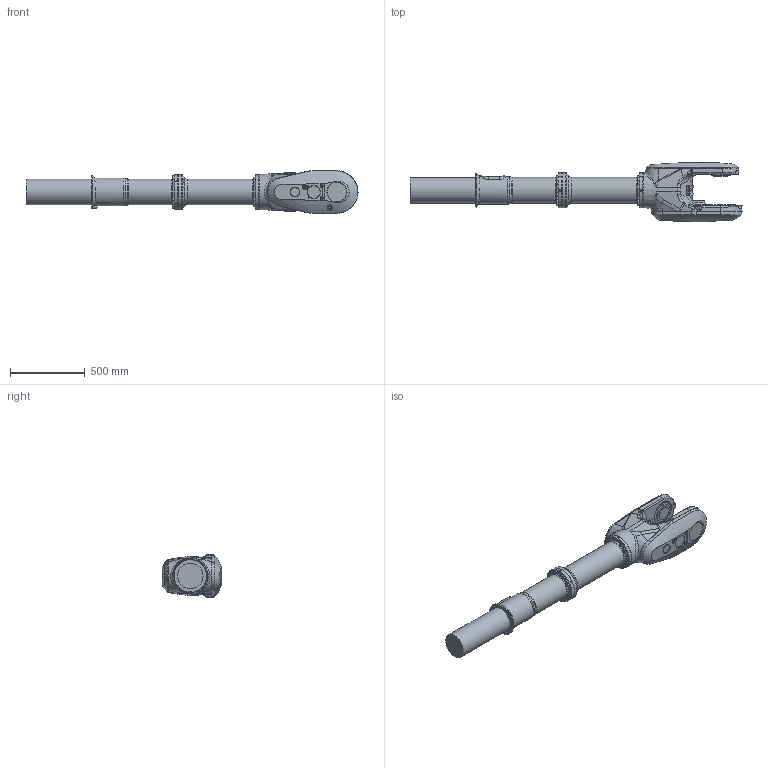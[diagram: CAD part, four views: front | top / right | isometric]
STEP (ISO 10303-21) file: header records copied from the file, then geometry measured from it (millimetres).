
FILE_DESCRIPTION (( 'STEP AP214' ), '1' );
FILE_NAME ('IRB6750S_All-390_OC_00_LINK04_CAD.step', '2026-05-13T05:21:33', ( '' ), ( '' ), 'SwSTEP 2.0', 'SolidWorks 2024', '' );
FILE_SCHEMA (( 'AUTOMOTIVE_DESIGN' ));
Length unit declared in the file: millimetre
Products named in the file (1): IRB6750S_All-390_OC_00_LINK04_CAD
Bounding box: 2217.5 x 395.55 x 284 mm (x, y, z)
Volume: 75496338.3 mm3; surface area: 1831654.3 mm2
Topology: 1 solids, 1 shells, 655 faces, 1598 edges, 1017 vertices
Faces by surface type: plane 312, cylinder 139, bspline 91, cone 86, torus 27
Full cylindrical faces by diameter (mm): 6.8 x8, 8.3 x2, 10.5 x2, 12 x3, 17.4 x1, 17.9 x2, 18 x1, 18.27 x28, 20 x2, 24 x1, 27 x2, 28.01 x1, 28.5 x2, 62 x1, 92 x1, 124 x1, 132 x1, 138 x1, 148 x1, 153 x1, 164.985 x1, 170 x1, 172 x2, 185 x1, 234 x4
Entity records: 36517 total; most frequent: CARTESIAN_POINT 15892, ORIENTED_EDGE 2830, DIRECTION 2408, EDGE_CURVE 1415, VERTEX_POINT 974, AXIS2_PLACEMENT_3D 924, EDGE_LOOP 871, FACE_OUTER_BOUND 743
